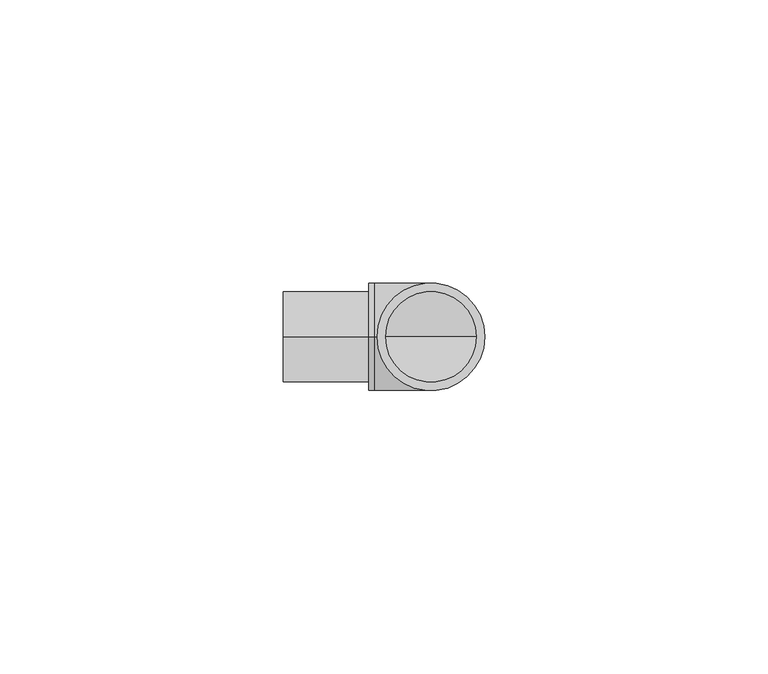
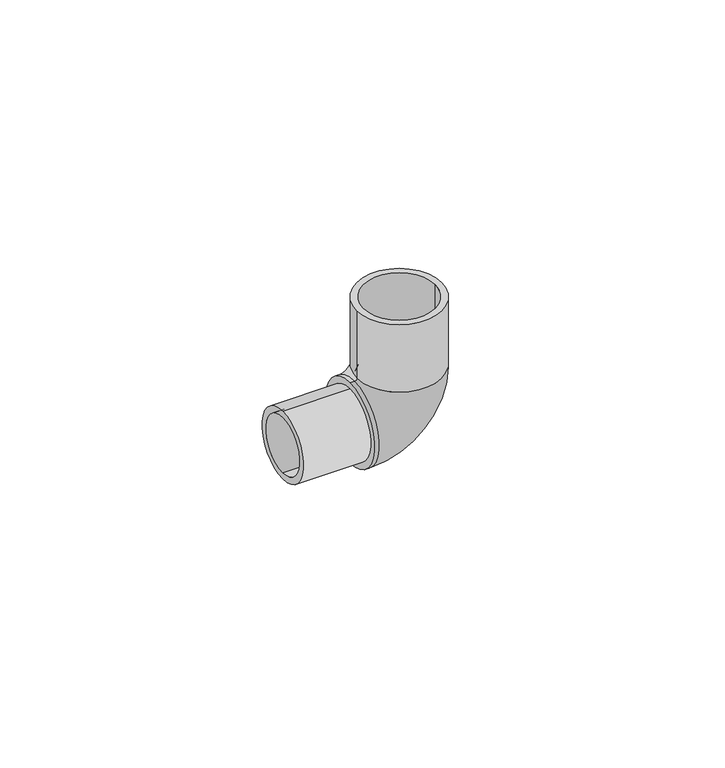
"""IFC4 building model written with IfcOpenShell, lengths in millimetres: pipe fitting geometry, Codo Pipa 90°_Lubrizol_CPVC_FlowGuard_MX 13mm : Codo Pipa 90°_Lubrizol_CPVC_FlowGuard_MX 13mm."""

from ifc_helpers import new_model, si_unit, point, frame, frame_2d, origin, place, context, project, spatial, polyline, circle_curve, ellipse_curve, trimmed, segment, composite_curve, outline, extrude, source, transform, mapped, element, save
from ifc_brep_helpers import plane_surface, cylinder_surface, revolved_surface, advanced_brep


def pipe_fitting_17c325e0(model_context):
    return source(origin(), model_context, "Body", "SolidModel", [
        extrude(outline(composite_curve([segment(trimmed(circle_curve(frame_2d((0.0, 130.0832253)), 8.0), [point((0.0, 122.0832253))], [point((0.0, 138.0832253))], False, "CARTESIAN"), True, "CONTINUOUS"), segment(trimmed(circle_curve(frame_2d((0.0, 130.0832253)), 8.0), [point((0.0, 138.0832253))], [point((0.0, 122.0832253))], False, "CARTESIAN"), True, "CONTINUOUS")], self_intersect=False), holes=[composite_curve([segment(trimmed(circle_curve(frame_2d((0.0, 130.0832253)), 6.5), [point((0.0, 136.5832253))], [point((0.0, 123.5832253))], True, "CARTESIAN"), True, "CONTINUOUS"), segment(trimmed(circle_curve(frame_2d((0.0, 130.0832253)), 6.5), [point((0.0, 123.5832253))], [point((0.0, 136.5832253))], True, "CARTESIAN"), True, "CONTINUOUS")], self_intersect=False)]), frame((-112.2994274, 0.0, 0.0), z_axis=(1.0, 0.0, 0.0), x_axis=(0.0, 1.0, 0.0)), (0.0, 0.0, 1.0), 15.0411211),
        advanced_brep(
        [(-97.2583064, 0.0, 139.5832253), (-97.2583064, 0.0, 120.5832253), (-97.2583064, 0.0, 138.0832253), (-97.2583064, 0.0, 122.0832253), (-96.2543063, 0.0, 138.0832253), (-96.2543063, 0.0, 122.0832253), (-96.2543063, 0.0, 139.5832253), (-96.2543063, 0.0, 120.5832253), (-78.2543063, 0.0, 140.0832253), (-94.2543063, 0.0, 140.0832253), (-76.7543063, 0.0, 140.0832253), (-95.7543063, 0.0, 140.0832253), (-95.7543063, 0.0, 156.0563043), (-76.7543063, 0.0, 156.0563043), (-94.2543063, 0.0, 156.0563043), (-78.2543063, 0.0, 156.0563043)],
        [
            (0, 1, circle_curve(frame((-97.2583064, 0.0, 130.0832253), z_axis=(-1.0, 0.0, 0.0), x_axis=(0.0, 0.0, -1.0)), 9.5)),
            (1, 0, circle_curve(frame((-97.2583064, 0.0, 130.0832253), z_axis=(-1.0, 0.0, 0.0), x_axis=(0.0, 0.0, -1.0)), 9.5)),
            (2, 3, circle_curve(frame((-97.2583064, 0.0, 130.0832253), z_axis=(1.0, 0.0, 0.0), x_axis=(0.0, 0.0, -1.0)), 8.0)),
            (3, 2, circle_curve(frame((-97.2583064, 0.0, 130.0832253), z_axis=(1.0, 0.0, 0.0), x_axis=(0.0, 0.0, -1.0)), 8.0)),
            (2, 4),
            (4, 5, circle_curve(frame((-96.2543063, 0.0, 130.0832253), z_axis=(1.0, 0.0, 0.0), x_axis=(0.0, 0.0, -1.0)), 8.0)),
            (5, 3),
            (5, 4, circle_curve(frame((-96.2543063, 0.0, 130.0832253), z_axis=(1.0, 0.0, 0.0), x_axis=(0.0, 0.0, -1.0)), 8.0)),
            (0, 6),
            (6, 7, circle_curve(frame((-96.2543063, 0.0, 130.0832253), z_axis=(-1.0, 0.0, 0.0), x_axis=(0.0, 0.0, -1.0)), 9.5)),
            (7, 1),
            (7, 6, circle_curve(frame((-96.2543063, 0.0, 130.0832253), z_axis=(-1.0, 0.0, 0.0), x_axis=(0.0, 0.0, -1.0)), 9.5)),
            (8, 5, circle_curve(frame((-96.2543063, 0.0, 140.0832253), z_axis=(0.0, 1.0, 0.0), x_axis=(0.0, 0.0, -1.0)), 18.0)),
            (4, 9, circle_curve(frame((-96.2543063, 0.0, 140.0832253), z_axis=(0.0, -1.0, 0.0), x_axis=(0.0, 0.0, -1.0)), 2.0)),
            (9, 8, circle_curve(frame((-86.2543063, 0.0, 140.0832253), z_axis=(0.0, 0.0, 1.0), x_axis=(1.0, 0.0, 0.0)), 8.0)),
            (8, 9, circle_curve(frame((-86.2543063, 0.0, 140.0832253), z_axis=(0.0, 0.0, 1.0), x_axis=(1.0, 0.0, 0.0)), 8.0)),
            (10, 7, circle_curve(frame((-96.2543063, 0.0, 140.0832253), z_axis=(0.0, 1.0, 0.0), x_axis=(0.0, 0.0, -1.0)), 19.5)),
            (6, 11, circle_curve(frame((-96.2543063, 0.0, 140.0832253), z_axis=(0.0, -1.0, 0.0), x_axis=(0.0, 0.0, -1.0)), 0.5)),
            (11, 10, circle_curve(frame((-86.2543063, 0.0, 140.0832253), z_axis=(0.0, 0.0, -1.0), x_axis=(1.0, 0.0, 0.0)), 9.5)),
            (10, 11, circle_curve(frame((-86.2543063, 0.0, 140.0832253), z_axis=(0.0, 0.0, -1.0), x_axis=(1.0, 0.0, 0.0)), 9.5)),
            (12, 13, circle_curve(frame((-86.2543063, 0.0, 156.0563043), z_axis=(0.0, 0.0, 1.0), x_axis=(1.0, 0.0, 0.0)), 9.5)),
            (13, 12, circle_curve(frame((-86.2543063, 0.0, 156.0563043), z_axis=(0.0, 0.0, 1.0), x_axis=(1.0, 0.0, 0.0)), 9.5)),
            (14, 15, circle_curve(frame((-86.2543063, 0.0, 156.0563043), z_axis=(0.0, 0.0, -1.0), x_axis=(1.0, 0.0, 0.0)), 8.0)),
            (15, 14, circle_curve(frame((-86.2543063, 0.0, 156.0563043), z_axis=(0.0, 0.0, -1.0), x_axis=(1.0, 0.0, 0.0)), 8.0)),
            (9, 14),
            (15, 8),
            (11, 12),
            (13, 10),
        ],
        [
            plane_surface(frame((-97.2583064, 0.0, 130.0832253), z_axis=(-1.0, 0.0, 0.0), x_axis=(0.0, -1.0, 0.0))),
            revolved_surface(polyline([(-96.2543063, 0.0, 122.08322530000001), (-97.2583064, 0.0, 122.08322530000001)]), (-97.2583064, 0.0, 130.0832253), (1.0, 0.0, 0.0)),
            cylinder_surface(frame((-97.2583064, 0.0, 130.0832253), z_axis=(-1.0, 0.0, 0.0), x_axis=(0.0, 0.0, -1.0)), 9.5),
            revolved_surface(trimmed(ellipse_curve(frame((-96.2543063, 0.0, 130.0832253), z_axis=(1.0, 0.0, 0.0), x_axis=(0.0, 0.0, -1.0)), 8.0, 8.0), [point((-96.2543063, 0.0, 138.0832253))], [point((-96.2543063, 0.0, 122.0832253))], True, "CARTESIAN"), (-96.2543063, 0.0, 140.0832253), (0.0, -1.0, 0.0)),
            revolved_surface(trimmed(ellipse_curve(frame((-96.2543063, 0.0, 130.0832253), z_axis=(1.0, 0.0, 0.0), x_axis=(0.0, 0.0, -1.0)), 8.0, 8.0), [point((-96.2543063, 0.0, 122.0832253))], [point((-96.2543063, 0.0, 138.0832253))], True, "CARTESIAN"), (-96.2543063, 0.0, 140.0832253), (0.0, -1.0, 0.0)),
            revolved_surface(trimmed(ellipse_curve(frame((-96.2543063, 0.0, 130.0832253), z_axis=(-1.0, 0.0, 0.0), x_axis=(0.0, 0.0, -1.0)), 9.5, 9.5), [point((-96.2543063, 0.0, 139.5832253))], [point((-96.2543063, 0.0, 120.5832253))], True, "CARTESIAN"), (-96.2543063, 0.0, 140.0832253), (0.0, -1.0, 0.0)),
            revolved_surface(trimmed(ellipse_curve(frame((-96.2543063, 0.0, 130.0832253), z_axis=(-1.0, 0.0, 0.0), x_axis=(0.0, 0.0, -1.0)), 9.5, 9.5), [point((-96.2543063, 0.0, 120.5832253))], [point((-96.2543063, 0.0, 139.5832253))], True, "CARTESIAN"), (-96.2543063, 0.0, 140.0832253), (0.0, -1.0, 0.0)),
            plane_surface(frame((-86.2543063, 0.0, 156.0563043), z_axis=(0.0, 0.0, 1.0), x_axis=(0.0, -1.0, 0.0))),
            revolved_surface(polyline([(-78.2543063, 0.0, 156.0563043), (-78.2543063, 0.0, 140.0832253)]), (-86.2543063, 0.0, 140.0832253), (0.0, 0.0, 1.0)),
            cylinder_surface(frame((-86.2543063, 0.0, 140.0832253), z_axis=(0.0, 0.0, -1.0), x_axis=(1.0, 0.0, 0.0)), 9.5),
        ],
        [
            (0, [[1, 2], [3, 4]]),
            (1, [[-3, 5, 6, 7]]),
            (1, [[-4, -7, 8, -5]]),
            (2, [[-1, 9, 10, 11]]),
            (2, [[-2, -11, 12, -9]]),
            (3, [[13, -6, 14, 15]]),
            (4, [[-14, -8, -13, 16]]),
            (5, [[17, -10, 18, 19]]),
            (6, [[-18, -12, -17, 20]]),
            (7, [[21, 22], [23, 24]]),
            (8, [[-15, 25, -24, 26]]),
            (8, [[-16, -26, -23, -25]]),
            (9, [[-19, 27, -22, 28]]),
            (9, [[-20, -28, -21, -27]]),
        ],
    ),
    ])


if __name__ == "__main__":
    model = new_model("IFC4")
    model_context = context("Model", 3, world=origin())
    ifc_project = project(units=[si_unit("LENGTHUNIT", "METRE", prefix="MILLI")], contexts=[model_context])
    site = spatial("IfcSite", under=ifc_project)
    building = spatial("IfcBuilding", under=site)
    placement = place(None, origin())
    pipe_fitting_shape = pipe_fitting_17c325e0(model_context)
    element("IfcPipeFitting", 1, ObjectType="Codo Pipa 90°_Lubrizol_CPVC_FlowGuard_MX 13mm : Codo Pipa 90°_Lubrizol_CPVC_FlowGuard_MX 13mm", at=placement, inside=building, context=model_context, shape_type="MappedRepresentation", body=[
        mapped(pipe_fitting_shape, transform((0.0, 0.0, 0.0), x_axis=(1.0, 0.0, 0.0), y_axis=(0.0, 1.0, 0.0), z_axis=(0.0, 0.0, 1.0))),
    ])
    save(model, "model.ifc")
